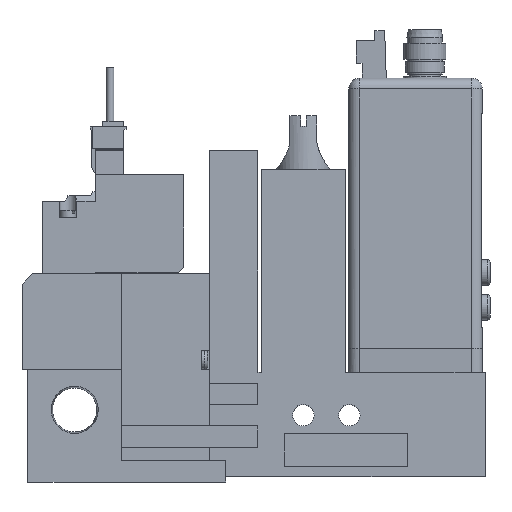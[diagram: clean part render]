
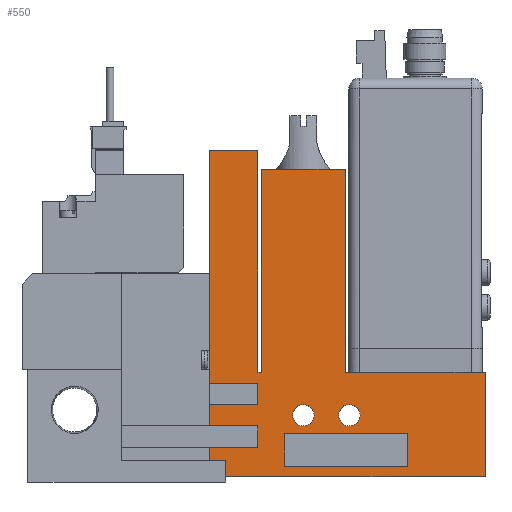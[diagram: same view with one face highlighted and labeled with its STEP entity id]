
A CAD part, top view. The second image highlights one B-rep face of the part: STEP entity #550.
In plain terms, the highlighted planar face has unit normal (0, 0, 1).
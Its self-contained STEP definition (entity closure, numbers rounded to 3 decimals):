
#550=ADVANCED_FACE('',(#1539,#1540,#1541,#1542),#1543,.T.);
#1539=FACE_OUTER_BOUND('',#3224,.T.);
#1540=FACE_BOUND('',#3225,.T.);
#1541=FACE_BOUND('',#3226,.T.);
#1542=FACE_BOUND('',#3227,.T.);
#1543=PLANE('',#3228);
#3224=EDGE_LOOP('',(#6326,#6327,#6328,#6329,#6330,#6331,#6332,#6333,#6334,#6335,#6336,#6337,#6338,#6339,#6340,#6341,#6342,#6343));
#3225=EDGE_LOOP('',(#6344,#6345,#6346,#6347));
#3226=EDGE_LOOP('',(#6348));
#3227=EDGE_LOOP('',(#6349));
#3228=AXIS2_PLACEMENT_3D('',#6350,#6351,#6352);
#6326=ORIENTED_EDGE('',*,*,#11045,.T.);
#6327=ORIENTED_EDGE('',*,*,#11046,.T.);
#6328=ORIENTED_EDGE('',*,*,#11047,.T.);
#6329=ORIENTED_EDGE('',*,*,#11048,.T.);
#6330=ORIENTED_EDGE('',*,*,#11049,.T.);
#6331=ORIENTED_EDGE('',*,*,#11050,.T.);
#6332=ORIENTED_EDGE('',*,*,#11051,.T.);
#6333=ORIENTED_EDGE('',*,*,#11052,.T.);
#6334=ORIENTED_EDGE('',*,*,#11053,.T.);
#6335=ORIENTED_EDGE('',*,*,#11054,.T.);
#6336=ORIENTED_EDGE('',*,*,#11055,.T.);
#6337=ORIENTED_EDGE('',*,*,#11056,.T.);
#6338=ORIENTED_EDGE('',*,*,#11057,.T.);
#6339=ORIENTED_EDGE('',*,*,#11058,.T.);
#6340=ORIENTED_EDGE('',*,*,#11059,.T.);
#6341=ORIENTED_EDGE('',*,*,#11060,.T.);
#6342=ORIENTED_EDGE('',*,*,#11061,.T.);
#6343=ORIENTED_EDGE('',*,*,#11062,.T.);
#6344=ORIENTED_EDGE('',*,*,#11063,.T.);
#6345=ORIENTED_EDGE('',*,*,#11064,.T.);
#6346=ORIENTED_EDGE('',*,*,#11065,.T.);
#6347=ORIENTED_EDGE('',*,*,#11066,.T.);
#6348=ORIENTED_EDGE('',*,*,#11067,.T.);
#6349=ORIENTED_EDGE('',*,*,#11068,.T.);
#6350=CARTESIAN_POINT('',(0.0,0.0,10.0));
#6351=DIRECTION('',(0.0,0.0,1.0));
#6352=DIRECTION('',(1.0,0.0,0.0));
#11045=EDGE_CURVE('',#13490,#13491,#13492,.T.);
#11046=EDGE_CURVE('',#13491,#13493,#13494,.T.);
#11047=EDGE_CURVE('',#13493,#13495,#13496,.T.);
#11048=EDGE_CURVE('',#13495,#13497,#13498,.T.);
#11049=EDGE_CURVE('',#13497,#13499,#13500,.T.);
#11050=EDGE_CURVE('',#13499,#13501,#13502,.T.);
#11051=EDGE_CURVE('',#13501,#13503,#13504,.T.);
#11052=EDGE_CURVE('',#13503,#13505,#13506,.T.);
#11053=EDGE_CURVE('',#13505,#13507,#13508,.T.);
#11054=EDGE_CURVE('',#13507,#13509,#13510,.T.);
#11055=EDGE_CURVE('',#13509,#13511,#13512,.T.);
#11056=EDGE_CURVE('',#13511,#13513,#13514,.T.);
#11057=EDGE_CURVE('',#13513,#13515,#13516,.T.);
#11058=EDGE_CURVE('',#13515,#13517,#13518,.T.);
#11059=EDGE_CURVE('',#13517,#13519,#13520,.T.);
#11060=EDGE_CURVE('',#13519,#13521,#13522,.T.);
#11061=EDGE_CURVE('',#13521,#13523,#13524,.T.);
#11062=EDGE_CURVE('',#13523,#13490,#13525,.T.);
#11063=EDGE_CURVE('',#13526,#13527,#13528,.T.);
#11064=EDGE_CURVE('',#13527,#13529,#13530,.T.);
#11065=EDGE_CURVE('',#13529,#13531,#13532,.T.);
#11066=EDGE_CURVE('',#13531,#13526,#13533,.T.);
#11067=EDGE_CURVE('',#13534,#13534,#13535,.T.);
#11068=EDGE_CURVE('',#13536,#13536,#13537,.T.);
#13490=VERTEX_POINT('',#17264);
#13491=VERTEX_POINT('',#17265);
#13492=LINE('',#17266,#17267);
#13493=VERTEX_POINT('',#17268);
#13494=LINE('',#17269,#17270);
#13495=VERTEX_POINT('',#17271);
#13496=LINE('',#17272,#17273);
#13497=VERTEX_POINT('',#17274);
#13498=LINE('',#17275,#17276);
#13499=VERTEX_POINT('',#17277);
#13500=LINE('',#17278,#17279);
#13501=VERTEX_POINT('',#17280);
#13502=LINE('',#17281,#17282);
#13503=VERTEX_POINT('',#17283);
#13504=LINE('',#17284,#17285);
#13505=VERTEX_POINT('',#17286);
#13506=LINE('',#17287,#17288);
#13507=VERTEX_POINT('',#17289);
#13508=LINE('',#17290,#17291);
#13509=VERTEX_POINT('',#17292);
#13510=LINE('',#17293,#17294);
#13511=VERTEX_POINT('',#17295);
#13512=LINE('',#17296,#17297);
#13513=VERTEX_POINT('',#17298);
#13514=LINE('',#17299,#17300);
#13515=VERTEX_POINT('',#17301);
#13516=LINE('',#17302,#17303);
#13517=VERTEX_POINT('',#17304);
#13518=LINE('',#17305,#17306);
#13519=VERTEX_POINT('',#17307);
#13520=LINE('',#17308,#17309);
#13521=VERTEX_POINT('',#17310);
#13522=LINE('',#17311,#17312);
#13523=VERTEX_POINT('',#17313);
#13524=LINE('',#17314,#17315);
#13525=LINE('',#17316,#17317);
#13526=VERTEX_POINT('',#17318);
#13527=VERTEX_POINT('',#17319);
#13528=LINE('',#17320,#17321);
#13529=VERTEX_POINT('',#17322);
#13530=LINE('',#17323,#17324);
#13531=VERTEX_POINT('',#17325);
#13532=LINE('',#17326,#17327);
#13533=LINE('',#17328,#17329);
#13534=VERTEX_POINT('',#17330);
#13535=CIRCLE('',#17331,2.0);
#13536=VERTEX_POINT('',#17332);
#13537=CIRCLE('',#17333,2.0);
#17264=CARTESIAN_POINT('',(35.1,61.0,10.0));
#17265=CARTESIAN_POINT('',(35.1,17.5,10.0));
#17266=CARTESIAN_POINT('',(35.1,61.0,10.0));
#17267=VECTOR('',#21303,1.0);
#17268=CARTESIAN_POINT('',(44.1,17.5,10.0));
#17269=CARTESIAN_POINT('',(0.0,17.5,10.0));
#17270=VECTOR('',#21304,1.0);
#17271=CARTESIAN_POINT('',(44.1,13.5,10.0));
#17272=CARTESIAN_POINT('',(44.1,0.0,10.0));
#17273=VECTOR('',#21305,1.0);
#17274=CARTESIAN_POINT('',(35.1,13.5,10.0));
#17275=CARTESIAN_POINT('',(0.0,13.5,10.0));
#17276=VECTOR('',#21306,1.0);
#17277=CARTESIAN_POINT('',(35.1,9.5,10.0));
#17278=CARTESIAN_POINT('',(35.1,0.0,10.0));
#17279=VECTOR('',#21307,1.0);
#17280=CARTESIAN_POINT('',(44.1,9.5,10.0));
#17281=CARTESIAN_POINT('',(0.0,9.5,10.0));
#17282=VECTOR('',#21308,1.0);
#17283=CARTESIAN_POINT('',(44.1,5.5,10.0));
#17284=CARTESIAN_POINT('',(44.1,0.0,10.0));
#17285=VECTOR('',#21309,1.0);
#17286=CARTESIAN_POINT('',(35.1,5.5,10.0));
#17287=CARTESIAN_POINT('',(0.0,5.5,10.0));
#17288=VECTOR('',#21310,1.0);
#17289=CARTESIAN_POINT('',(35.1,0.0,10.0));
#17290=CARTESIAN_POINT('',(35.1,0.0,10.0));
#17291=VECTOR('',#21311,1.0);
#17292=CARTESIAN_POINT('',(86.6,0.0,10.0));
#17293=CARTESIAN_POINT('',(18.6,0.0,10.0));
#17294=VECTOR('',#21312,1.0);
#17295=CARTESIAN_POINT('',(86.6,19.5,10.0));
#17296=CARTESIAN_POINT('',(86.6,0.0,10.0));
#17297=VECTOR('',#21313,1.0);
#17298=CARTESIAN_POINT('',(60.45,19.5,10.0));
#17299=CARTESIAN_POINT('',(86.6,19.5,10.0));
#17300=VECTOR('',#21314,1.0);
#17301=CARTESIAN_POINT('',(60.45,57.5,10.0));
#17302=CARTESIAN_POINT('',(60.45,19.5,10.0));
#17303=VECTOR('',#21315,1.0);
#17304=CARTESIAN_POINT('',(44.75,57.5,10.0));
#17305=CARTESIAN_POINT('',(60.45,57.5,10.0));
#17306=VECTOR('',#21316,1.0);
#17307=CARTESIAN_POINT('',(44.75,19.5,10.0));
#17308=CARTESIAN_POINT('',(44.75,57.5,10.0));
#17309=VECTOR('',#21317,1.0);
#17310=CARTESIAN_POINT('',(44.1,19.5,10.0));
#17311=CARTESIAN_POINT('',(44.75,19.5,10.0));
#17312=VECTOR('',#21318,1.0);
#17313=CARTESIAN_POINT('',(44.1,61.0,10.0));
#17314=CARTESIAN_POINT('',(44.1,19.5,10.0));
#17315=VECTOR('',#21319,1.0);
#17316=CARTESIAN_POINT('',(44.1,61.0,10.0));
#17317=VECTOR('',#21320,1.0);
#17318=CARTESIAN_POINT('',(49.1,2.0,10.0));
#17319=CARTESIAN_POINT('',(49.1,8.0,10.0));
#17320=CARTESIAN_POINT('',(49.1,0.0,10.0));
#17321=VECTOR('',#21321,1.0);
#17322=CARTESIAN_POINT('',(72.1,8.0,10.0));
#17323=CARTESIAN_POINT('',(0.0,8.0,10.0));
#17324=VECTOR('',#21322,1.0);
#17325=CARTESIAN_POINT('',(72.1,2.0,10.0));
#17326=CARTESIAN_POINT('',(72.1,0.0,10.0));
#17327=VECTOR('',#21323,1.0);
#17328=CARTESIAN_POINT('',(0.0,2.0,10.0));
#17329=VECTOR('',#21324,1.0);
#17330=CARTESIAN_POINT('',(54.6,11.5,10.0));
#17331=AXIS2_PLACEMENT_3D('',#21325,#21326,#21327);
#17332=CARTESIAN_POINT('',(63.2,11.5,10.0));
#17333=AXIS2_PLACEMENT_3D('',#21328,#21329,#21330);
#21303=DIRECTION('',(0.0,-1.0,0.0));
#21304=DIRECTION('',(1.0,0.0,0.0));
#21305=DIRECTION('',(0.0,-1.0,0.0));
#21306=DIRECTION('',(-1.0,0.0,0.0));
#21307=DIRECTION('',(0.0,-1.0,0.0));
#21308=DIRECTION('',(1.0,0.0,0.0));
#21309=DIRECTION('',(0.0,-1.0,0.0));
#21310=DIRECTION('',(-1.0,0.0,0.0));
#21311=DIRECTION('',(0.0,-1.0,0.0));
#21312=DIRECTION('',(1.0,0.0,0.0));
#21313=DIRECTION('',(0.0,1.0,0.0));
#21314=DIRECTION('',(-1.0,0.0,0.0));
#21315=DIRECTION('',(0.0,1.0,0.0));
#21316=DIRECTION('',(-1.0,0.0,0.0));
#21317=DIRECTION('',(0.0,-1.0,0.0));
#21318=DIRECTION('',(-1.0,0.0,0.0));
#21319=DIRECTION('',(0.0,1.0,0.0));
#21320=DIRECTION('',(-1.0,0.0,0.0));
#21321=DIRECTION('',(0.0,1.0,0.0));
#21322=DIRECTION('',(1.0,0.0,0.0));
#21323=DIRECTION('',(0.0,-1.0,0.0));
#21324=DIRECTION('',(-1.0,0.0,0.0));
#21325=CARTESIAN_POINT('',(52.6,11.5,10.0));
#21326=DIRECTION('',(0.0,0.0,-1.0));
#21327=DIRECTION('',(1.0,0.0,0.0));
#21328=CARTESIAN_POINT('',(61.2,11.5,10.0));
#21329=DIRECTION('',(0.0,0.0,-1.0));
#21330=DIRECTION('',(1.0,0.0,0.0));
